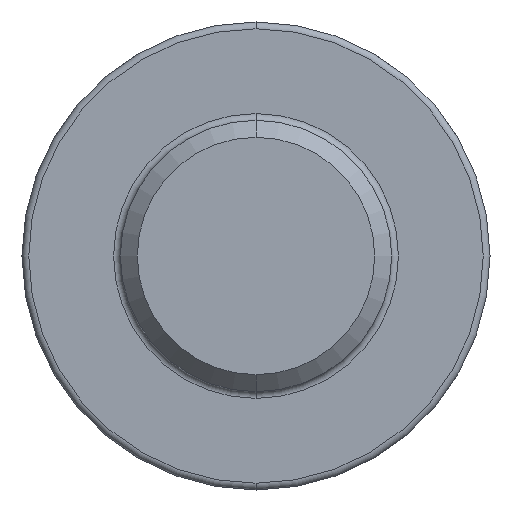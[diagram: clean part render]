
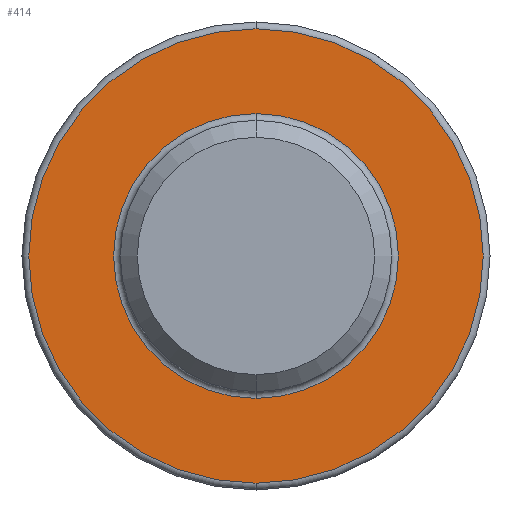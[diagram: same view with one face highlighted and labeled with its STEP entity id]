
A CAD part, front view. The second image highlights one B-rep face of the part: STEP entity #414.
In plain terms, the highlighted planar face has unit normal (0, -1, 0).
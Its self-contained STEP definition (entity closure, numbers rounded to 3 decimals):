
#3 = AXIS2_PLACEMENT_3D ( 'NONE', #594, #460, #392 ) ;
#6 = CARTESIAN_POINT ( 'NONE',  ( 0., -4.2, 0. ) ) ;
#43 = EDGE_CURVE ( 'NONE', #657, #518, #736, .T. ) ;
#63 = DIRECTION ( 'NONE',  ( 0., 0., 1. ) ) ;
#103 = ORIENTED_EDGE ( 'NONE', *, *, #634, .T. ) ;
#119 = CARTESIAN_POINT ( 'NONE',  ( 0., -4.2, 4.2 ) ) ;
#142 = CIRCLE ( 'NONE', #267, 4.2 ) ;
#193 = FACE_OUTER_BOUND ( 'NONE', #837, .T. ) ;
#197 = DIRECTION ( 'NONE',  ( 0., 1., 0. ) ) ;
#200 = AXIS2_PLACEMENT_3D ( 'NONE', #365, #774, #292 ) ;
#204 = DIRECTION ( 'NONE',  ( 0., 0., 1. ) ) ;
#211 = CIRCLE ( 'NONE', #448, 6.7 ) ;
#228 = EDGE_CURVE ( 'NONE', #518, #657, #142, .T. ) ;
#239 = VERTEX_POINT ( 'NONE', #469 ) ;
#240 = ORIENTED_EDGE ( 'NONE', *, *, #43, .T. ) ;
#253 = CARTESIAN_POINT ( 'NONE',  ( 0., -4.2, -6.7 ) ) ;
#257 = DIRECTION ( 'NONE',  ( 0., -1., 0. ) ) ;
#267 = AXIS2_PLACEMENT_3D ( 'NONE', #6, #197, #204 ) ;
#292 = DIRECTION ( 'NONE',  ( 0., 0., 1. ) ) ;
#348 = AXIS2_PLACEMENT_3D ( 'NONE', #728, #257, #63 ) ;
#365 = CARTESIAN_POINT ( 'NONE',  ( 0., -4.2, 0. ) ) ;
#381 = CIRCLE ( 'NONE', #348, 6.7 ) ;
#392 = DIRECTION ( 'NONE',  ( 0., 0., 1. ) ) ;
#396 = PLANE ( 'NONE',  #3 ) ;
#414 = ADVANCED_FACE ( 'NONE', ( #665, #193 ), #396, .F. ) ;
#430 = CARTESIAN_POINT ( 'NONE',  ( 0., -4.2, -4.2 ) ) ;
#448 = AXIS2_PLACEMENT_3D ( 'NONE', #644, #492, #761 ) ;
#457 = EDGE_CURVE ( 'NONE', #239, #513, #381, .T. ) ;
#460 = DIRECTION ( 'NONE',  ( 0., 1., 0. ) ) ;
#469 = CARTESIAN_POINT ( 'NONE',  ( 0., -4.2, 6.7 ) ) ;
#492 = DIRECTION ( 'NONE',  ( 0., -1., 0. ) ) ;
#513 = VERTEX_POINT ( 'NONE', #253 ) ;
#518 = VERTEX_POINT ( 'NONE', #119 ) ;
#593 = ORIENTED_EDGE ( 'NONE', *, *, #228, .T. ) ;
#594 = CARTESIAN_POINT ( 'NONE',  ( 4., -4.2, 0. ) ) ;
#634 = EDGE_CURVE ( 'NONE', #513, #239, #211, .T. ) ;
#644 = CARTESIAN_POINT ( 'NONE',  ( 0., -4.2, 0. ) ) ;
#657 = VERTEX_POINT ( 'NONE', #430 ) ;
#665 = FACE_BOUND ( 'NONE', #843, .T. ) ;
#728 = CARTESIAN_POINT ( 'NONE',  ( 0., -4.2, 0. ) ) ;
#736 = CIRCLE ( 'NONE', #200, 4.2 ) ;
#761 = DIRECTION ( 'NONE',  ( 0., 0., 1. ) ) ;
#774 = DIRECTION ( 'NONE',  ( 0., 1., 0. ) ) ;
#786 = ORIENTED_EDGE ( 'NONE', *, *, #457, .T. ) ;
#837 = EDGE_LOOP ( 'NONE', ( #786, #103 ) ) ;
#843 = EDGE_LOOP ( 'NONE', ( #593, #240 ) ) ;
